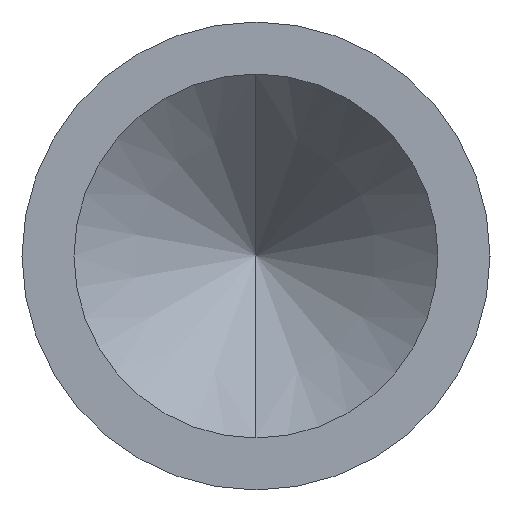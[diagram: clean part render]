
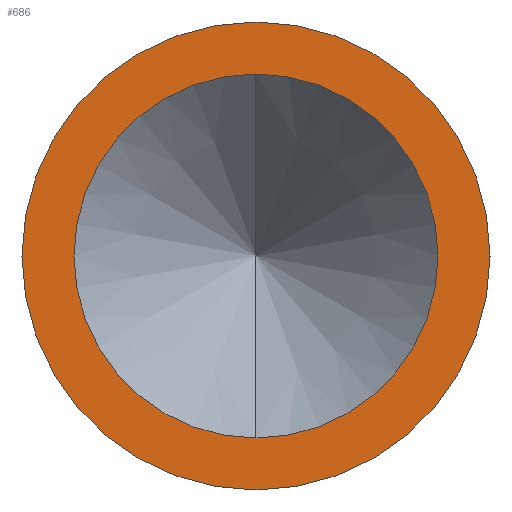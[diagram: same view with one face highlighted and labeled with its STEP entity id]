
A CAD part, left-side view. The second image highlights one B-rep face of the part: STEP entity #686.
In plain terms, the highlighted planar face has unit normal (-1, 0, 0).
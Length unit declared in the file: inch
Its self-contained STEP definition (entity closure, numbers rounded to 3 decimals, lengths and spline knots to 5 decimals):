
#36 = CIRCLE ( 'NONE', #734, 0.0135 ) ;
#54 = ORIENTED_EDGE ( 'NONE', *, *, #723, .T. ) ;
#79 = DIRECTION ( 'NONE',  ( -1., 0., 0. ) ) ;
#122 = FACE_BOUND ( 'NONE', #603, .T. ) ;
#180 = CIRCLE ( 'NONE', #291, 0.0105 ) ;
#187 = DIRECTION ( 'NONE',  ( 1., 0., 0. ) ) ;
#201 = CARTESIAN_POINT ( 'NONE',  ( 0.135, 0., 0. ) ) ;
#221 = VERTEX_POINT ( 'NONE', #280 ) ;
#230 = EDGE_CURVE ( 'NONE', #535, #221, #180, .T. ) ;
#258 = DIRECTION ( 'NONE',  ( 0., 0., -1. ) ) ;
#278 = EDGE_LOOP ( 'NONE', ( #365, #54 ) ) ;
#280 = CARTESIAN_POINT ( 'NONE',  ( 0.135, 0., -0.0105 ) ) ;
#287 = EDGE_CURVE ( 'NONE', #345, #464, #36, .T. ) ;
#291 = AXIS2_PLACEMENT_3D ( 'NONE', #586, #79, #447 ) ;
#310 = CARTESIAN_POINT ( 'NONE',  ( 0.135, 0., 0.0135 ) ) ;
#345 = VERTEX_POINT ( 'NONE', #310 ) ;
#347 = CARTESIAN_POINT ( 'NONE',  ( 0.135, 0., 0. ) ) ;
#348 = CARTESIAN_POINT ( 'NONE',  ( 0.135, 0., 0. ) ) ;
#350 = CIRCLE ( 'NONE', #832, 0.0135 ) ;
#353 = DIRECTION ( 'NONE',  ( 0., 0., 1. ) ) ;
#365 = ORIENTED_EDGE ( 'NONE', *, *, #287, .T. ) ;
#367 = FACE_OUTER_BOUND ( 'NONE', #278, .T. ) ;
#384 = DIRECTION ( 'NONE',  ( 0., 0., 1. ) ) ;
#447 = DIRECTION ( 'NONE',  ( 0., 0., 1. ) ) ;
#448 = AXIS2_PLACEMENT_3D ( 'NONE', #348, #475, #742 ) ;
#464 = VERTEX_POINT ( 'NONE', #510 ) ;
#475 = DIRECTION ( 'NONE',  ( -1., 0., 0. ) ) ;
#510 = CARTESIAN_POINT ( 'NONE',  ( 0.135, 0., -0.0135 ) ) ;
#517 = CIRCLE ( 'NONE', #448, 0.0105 ) ;
#524 = DIRECTION ( 'NONE',  ( -1., 0., 0. ) ) ;
#535 = VERTEX_POINT ( 'NONE', #617 ) ;
#586 = CARTESIAN_POINT ( 'NONE',  ( 0.135, 0., 0. ) ) ;
#603 = EDGE_LOOP ( 'NONE', ( #822, #755 ) ) ;
#617 = CARTESIAN_POINT ( 'NONE',  ( 0.135, 0., 0.0105 ) ) ;
#625 = PLANE ( 'NONE',  #761 ) ;
#647 = EDGE_CURVE ( 'NONE', #221, #535, #517, .T. ) ;
#670 = DIRECTION ( 'NONE',  ( -1., 0., 0. ) ) ;
#686 = ADVANCED_FACE ( 'NONE', ( #122, #367 ), #625, .F. ) ;
#723 = EDGE_CURVE ( 'NONE', #464, #345, #350, .T. ) ;
#734 = AXIS2_PLACEMENT_3D ( 'NONE', #347, #670, #353 ) ;
#742 = DIRECTION ( 'NONE',  ( 0., 0., 1. ) ) ;
#755 = ORIENTED_EDGE ( 'NONE', *, *, #647, .F. ) ;
#761 = AXIS2_PLACEMENT_3D ( 'NONE', #763, #187, #258 ) ;
#763 = CARTESIAN_POINT ( 'NONE',  ( 0.135, -0.01366, 0.01366 ) ) ;
#822 = ORIENTED_EDGE ( 'NONE', *, *, #230, .F. ) ;
#832 = AXIS2_PLACEMENT_3D ( 'NONE', #201, #524, #384 ) ;
